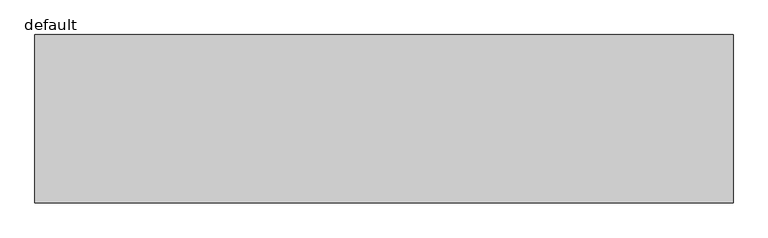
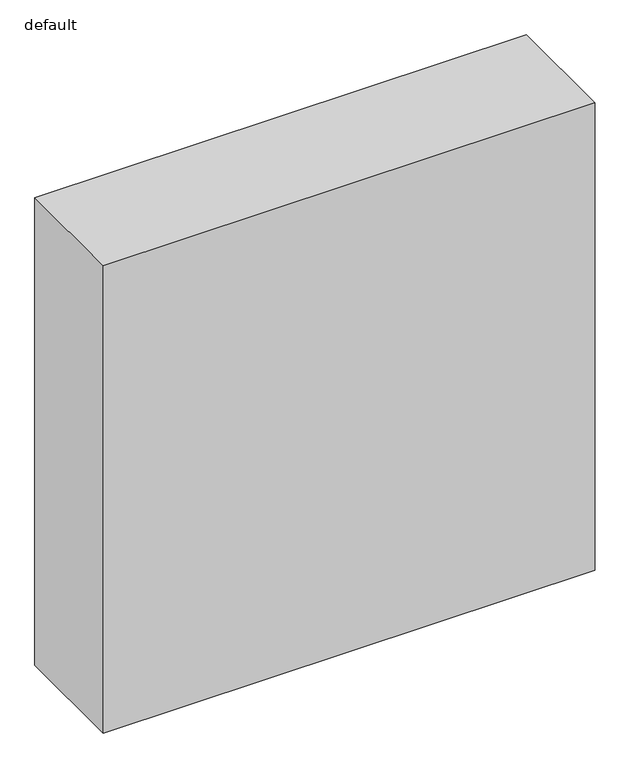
"""IFC4 building model written with IfcOpenShell, lengths in millimetres: furniture geometry, Fu_шкаф встроенный_LEG : default."""

from ifc_helpers import new_model, si_unit, origin, origin_with_axes, place, context, project, spatial, polyline, outline, extrude, source, transform, mapped, element, save


def default_d325dcdd(model_context):
    return source(origin(), model_context, "Body", "SweptSolid", [
        extrude(outline(polyline([(2490.0, 0.0), (0.0, 0.0), (0.0, 600.0), (2490.0, 600.0), (2490.0, 0.0)])), origin_with_axes(), (0.0, 0.0, 1.0), 2500.0),
    ])


if __name__ == "__main__":
    model = new_model("IFC4")
    model_context = context("Model", 3, world=origin())
    ifc_project = project(units=[si_unit("LENGTHUNIT", "METRE", prefix="MILLI")], contexts=[model_context])
    site = spatial("IfcSite", under=ifc_project)
    building = spatial("IfcBuilding", under=site)
    placement = place(None, origin())
    default_shape = default_d325dcdd(model_context)
    element("IfcFurniture", 1, ObjectType="Fu_шкаф встроенный_LEG : default", at=placement, inside=building, context=model_context, shape_type="MappedRepresentation", body=[
        mapped(default_shape, transform((0.0, 0.0, 0.0), x_axis=(1.0, 0.0, 0.0), y_axis=(0.0, 1.0, 0.0), z_axis=(0.0, 0.0, 1.0))),
    ])
    save(model, "model.ifc")
